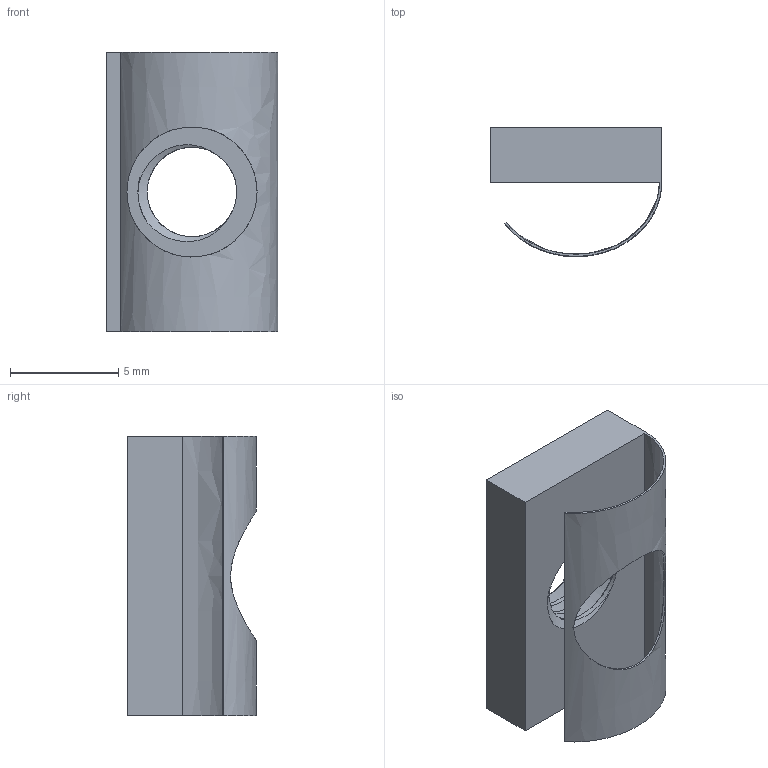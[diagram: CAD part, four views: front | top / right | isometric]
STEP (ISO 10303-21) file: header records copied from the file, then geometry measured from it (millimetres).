
FILE_DESCRIPTION((''),'2;1');
FILE_NAME('9281836000','2020-07-13T10:25:17',('uwe.diekroeger'),(''),'CREO PARAMETRIC BY PTC INC, 2018300','CREO PARAMETRIC BY PTC INC, 2018300','');
FILE_SCHEMA(('AUTOMOTIVE_DESIGN { 1 0 10303 214 1 1 1 1 }'));
Length unit declared in the file: millimetre
Products named in the file (1): 9281836000
Bounding box: 7.9 x 5.95 x 12.9 mm (x, y, z)
Volume: 227.5 mm3; surface area: 522.2 mm2
Topology: 1 solids, 1 shells, 23 faces, 64 edges, 46 vertices
Faces by surface type: cylinder 8, plane 7, bspline 6, extrusion 2
Entity records: 2791 total; most frequent: CARTESIAN_POINT 1556, COLOUR_RGB 142, ORIENTED_EDGE 122, DIRECTION 68, PRESENTATION_STYLE_ASSIGNMENT 66, STYLED_ITEM 66, CURVE_STYLE 65, EDGE_CURVE 61
